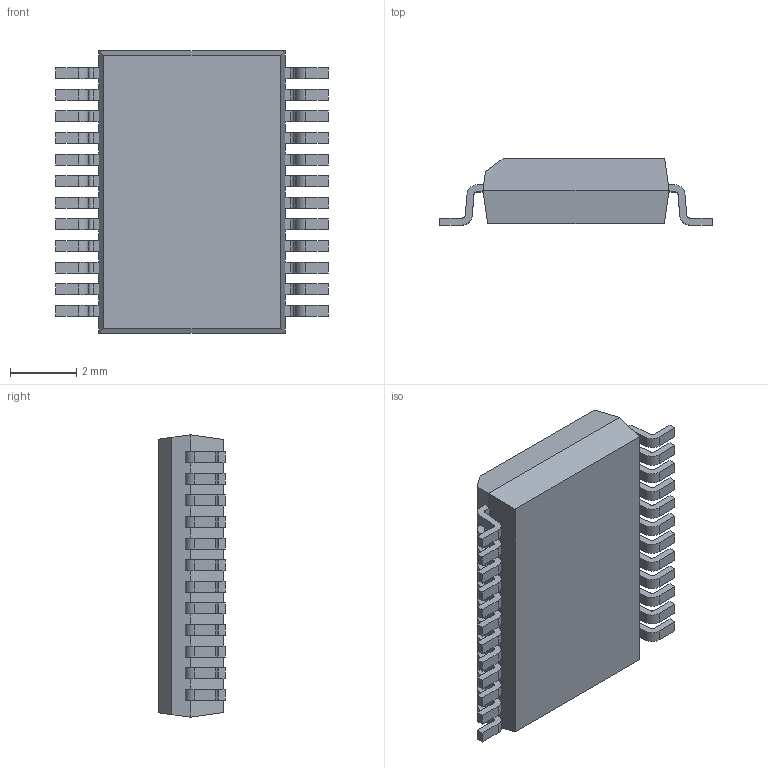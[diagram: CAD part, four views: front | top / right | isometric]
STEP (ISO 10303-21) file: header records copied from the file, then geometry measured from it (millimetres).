
FILE_DESCRIPTION (( 'STEP AP214' ), '1' );
FILE_NAME ('SOP65P780X200-24_MO-150.AG.STEP', '2014-10-28T13:32:02', ( 'Tester2' ), ( '' ), 'SwSTEP 2.0', 'SolidWorks 2012', '' );
FILE_SCHEMA (( 'AUTOMOTIVE_DESIGN' ));
Length unit declared in the file: millimetre
Products named in the file (1): SOP65P780X200-24_MO-150.AG
Bounding box: 8.2 x 2 x 8.5 mm (x, y, z)
Volume: 91.8 mm3; surface area: 194.3 mm2
Topology: 1 solids, 1 shells, 326 faces, 965 edges, 642 vertices
Faces by surface type: plane 228, cylinder 98
Entity records: 14352 total; most frequent: CARTESIAN_POINT 1934, ORIENTED_EDGE 1930, DIRECTION 1815, EDGE_CURVE 965, LINE 769, VECTOR 769, VERTEX_POINT 642, AXIS2_PLACEMENT_3D 523
